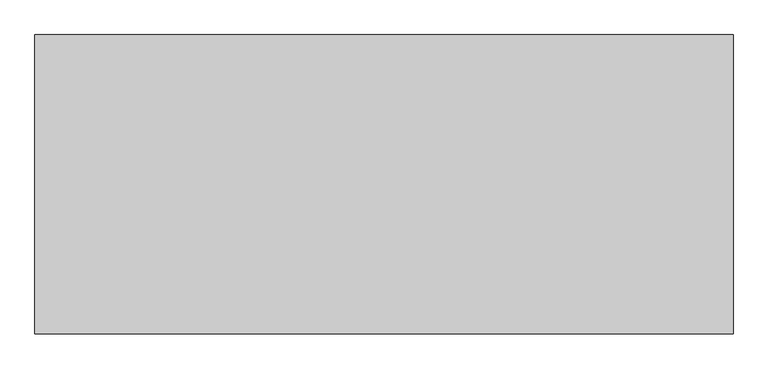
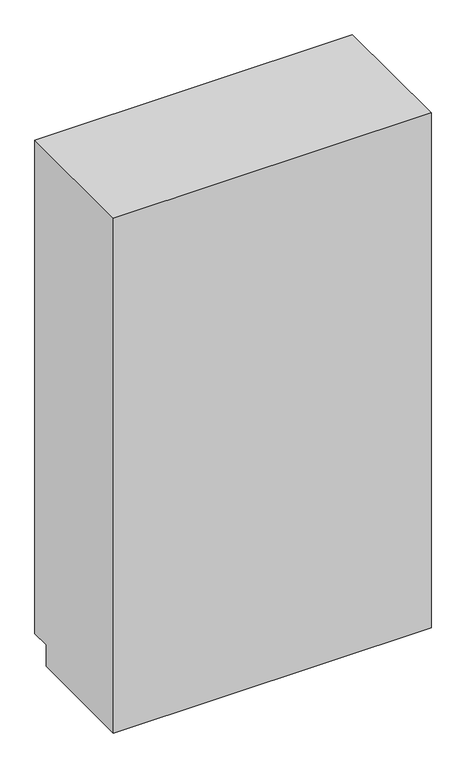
"""IFC4 building model written with IfcOpenShell, lengths in millimetres: furniture geometry, Casework Schematic - Tall : Casework Schematic - Tall."""

from ifc_helpers import new_model, si_unit, frame, origin, place, context, project, spatial, polyline, outline, extrude, source, transform, mapped, element, save


def furniture_685e9397(model_context):
    return source(origin(), model_context, "Body", "SweptSolid", [
        extrude(outline(polyline([(0.0, 2438.4), (609.6, 2438.4), (609.6, 101.6), (520.7, 101.6), (520.7, 0.0), (0.0, 0.0), (0.0, 2438.4)])), frame((0.0, 0.0, 0.0), z_axis=(1.0, 0.0, 0.0), x_axis=(0.0, 1.0, 0.0)), (0.0, 0.0, 1.0), 1422.4),
    ])


if __name__ == "__main__":
    model = new_model("IFC4")
    model_context = context("Model", 3, world=origin())
    ifc_project = project(units=[si_unit("LENGTHUNIT", "METRE", prefix="MILLI")], contexts=[model_context])
    site = spatial("IfcSite", under=ifc_project)
    building = spatial("IfcBuilding", under=site)
    placement = place(None, origin())
    furniture_shape = furniture_685e9397(model_context)
    element("IfcFurniture", 1, ObjectType="Casework Schematic - Tall : Casework Schematic - Tall", at=placement, inside=building, context=model_context, shape_type="MappedRepresentation", body=[
        mapped(furniture_shape, transform((0.0, 0.0, 0.0), x_axis=(1.0, 0.0, 0.0), y_axis=(0.0, 1.0, 0.0), z_axis=(0.0, 0.0, 1.0))),
    ])
    save(model, "model.ifc")
